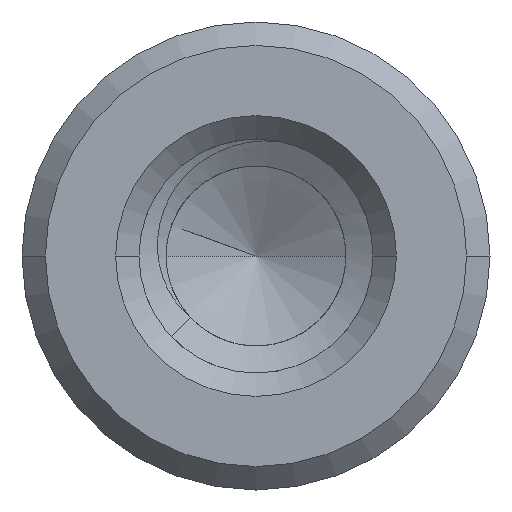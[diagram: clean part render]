
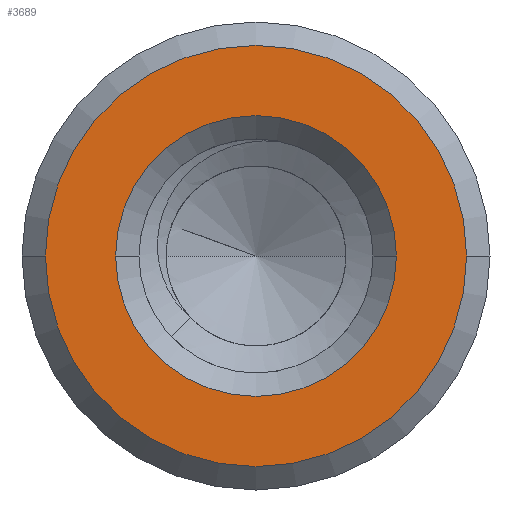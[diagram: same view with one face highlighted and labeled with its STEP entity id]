
A CAD part, front view. The second image highlights one B-rep face of the part: STEP entity #3689.
In plain terms, the highlighted planar face has unit normal (0, -1, 0).
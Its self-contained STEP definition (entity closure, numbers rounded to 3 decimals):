
#1=CARTESIAN_POINT('',(0.,-9.5,0.));
#2=DIRECTION('',(0.,1.,0.));
#3=DIRECTION('',(-1.,0.,0.));
#4=AXIS2_PLACEMENT_3D('',#1,#2,#3);
#6=CARTESIAN_POINT('',(0.,-9.5,0.));
#7=DIRECTION('',(0.,1.,0.));
#8=DIRECTION('',(1.,0.,0.));
#9=AXIS2_PLACEMENT_3D('',#6,#7,#8);
#11=CARTESIAN_POINT('',(0.,-9.5,0.));
#12=DIRECTION('',(0.,-1.,0.));
#13=DIRECTION('',(1.,0.,0.));
#14=AXIS2_PLACEMENT_3D('',#11,#12,#13);
#16=CARTESIAN_POINT('',(0.,-9.5,0.));
#17=DIRECTION('',(0.,-1.,0.));
#18=DIRECTION('',(-1.,0.,0.));
#19=AXIS2_PLACEMENT_3D('',#16,#17,#18);
#3648=CARTESIAN_POINT('',(-1.8,-9.5,0.));
#3649=CARTESIAN_POINT('',(1.8,-9.5,0.));
#3650=VERTEX_POINT('',#3648);
#3651=VERTEX_POINT('',#3649);
#3656=CARTESIAN_POINT('',(2.7,-9.5,0.));
#3657=CARTESIAN_POINT('',(-2.7,-9.5,0.));
#3658=VERTEX_POINT('',#3656);
#3659=VERTEX_POINT('',#3657);
#3672=CARTESIAN_POINT('',(0.,-9.5,0.));
#3673=DIRECTION('',(0.,1.,0.));
#3674=DIRECTION('',(1.,0.,0.));
#3675=AXIS2_PLACEMENT_3D('',#3672,#3673,#3674);
#3676=PLANE('',#3675);
#3678=ORIENTED_EDGE('',*,*,#3677,.F.);
#3680=ORIENTED_EDGE('',*,*,#3679,.F.);
#3681=EDGE_LOOP('',(#3678,#3680));
#3682=FACE_OUTER_BOUND('',#3681,.F.);
#3684=ORIENTED_EDGE('',*,*,#3683,.F.);
#3686=ORIENTED_EDGE('',*,*,#3685,.F.);
#3687=EDGE_LOOP('',(#3684,#3686));
#3688=FACE_BOUND('',#3687,.F.);
#3689=ADVANCED_FACE('',(#3682,#3688),#3676,.F.);
#5=CIRCLE('',#4,1.8);
#10=CIRCLE('',#9,1.8);
#15=CIRCLE('',#14,2.7);
#20=CIRCLE('',#19,2.7);
#3677=EDGE_CURVE('',#3658,#3659,#15,.T.);
#3679=EDGE_CURVE('',#3659,#3658,#20,.T.);
#3683=EDGE_CURVE('',#3650,#3651,#5,.T.);
#3685=EDGE_CURVE('',#3651,#3650,#10,.T.);
